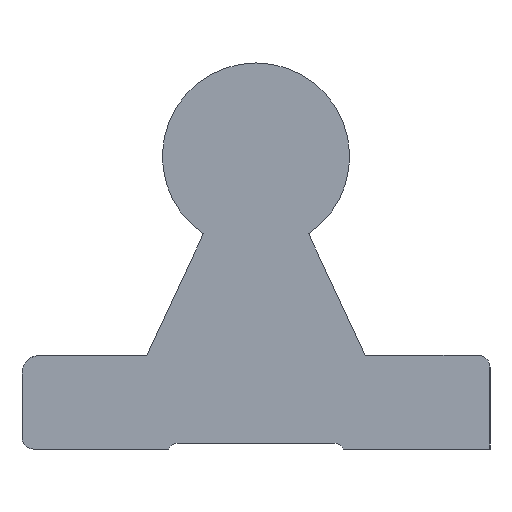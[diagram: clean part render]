
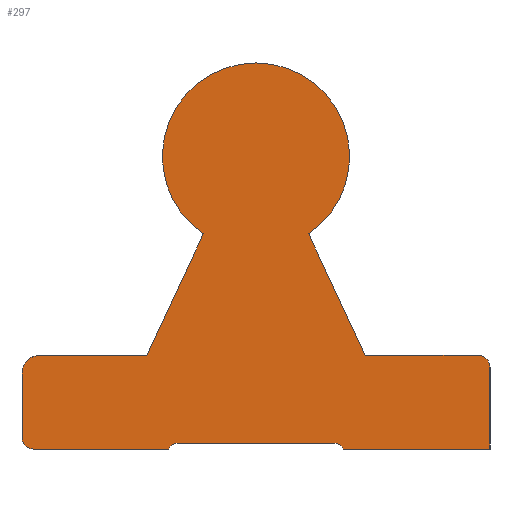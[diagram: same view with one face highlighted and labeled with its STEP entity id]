
A CAD part, left-side view. The second image highlights one B-rep face of the part: STEP entity #297.
In plain terms, the highlighted planar face has unit normal (-1, 0, 0).
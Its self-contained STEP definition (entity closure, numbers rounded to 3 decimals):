
#49=CARTESIAN_POINT('',(0.0,-6.634,0.5));
#50=VERTEX_POINT('',#49);
#51=CARTESIAN_POINT('',(0.0,-7.5,0.0));
#52=VERTEX_POINT('',#51);
#53=CARTESIAN_POINT('',(0.0,-6.634,-0.5));
#54=DIRECTION('',(-1.,0.0,0.0));
#55=DIRECTION('',(0.0,-0.866,0.5));
#56=AXIS2_PLACEMENT_3D('',#53,#54,#55);
#57=CIRCLE('',#56,1.);
#58=EDGE_CURVE('',#50,#52,#57,.F.);
#102=CARTESIAN_POINT('',(0.0,6.634,0.5));
#103=VERTEX_POINT('',#102);
#110=CARTESIAN_POINT('',(0.0,7.5,0.0));
#111=VERTEX_POINT('',#110);
#112=CARTESIAN_POINT('',(0.0,6.634,-0.5));
#113=DIRECTION('',(-1.,0.0,0.0));
#114=DIRECTION('',(0.0,0.866,0.5));
#115=AXIS2_PLACEMENT_3D('',#112,#113,#114);
#116=CIRCLE('',#115,1.);
#117=EDGE_CURVE('',#111,#103,#116,.F.);
#144=CARTESIAN_POINT('',(0.0,19.0,0.0));
#145=VERTEX_POINT('',#144);
#152=CARTESIAN_POINT('',(0.0,20.0,1.));
#153=VERTEX_POINT('',#152);
#154=CARTESIAN_POINT('',(0.0,19.0,1.0));
#155=DIRECTION('',(1.,0.0,0.0));
#156=DIRECTION('',(0.0,0.707,-0.707));
#157=AXIS2_PLACEMENT_3D('',#154,#155,#156);
#158=CIRCLE('',#157,1.);
#159=EDGE_CURVE('',#145,#153,#158,.T.);
#176=CARTESIAN_POINT('',(0.0,20.,6.5));
#177=VERTEX_POINT('',#176);
#178=CARTESIAN_POINT('',(0.0,20.0,1.));
#179=DIRECTION('',(0.0,0.0,1.0));
#180=VECTOR('',#179,5.5);
#181=LINE('',#178,#180);
#182=EDGE_CURVE('',#153,#177,#181,.T.);
#201=CARTESIAN_POINT('',(0.0,13.75,0.25));
#202=DIRECTION('',(1.0,0.0,0.0));
#203=DIRECTION('',(0.0,0.0,-1.0));
#204=AXIS2_PLACEMENT_3D('',#201,#202,#203);
#205=PLANE('',#204);
#206=ORIENTED_EDGE('',*,*,#159,.F.);
#207=CARTESIAN_POINT('',(0.0,7.5,0.0));
#208=DIRECTION('',(0.0,1.0,0.0));
#209=VECTOR('',#208,11.5);
#210=LINE('',#207,#209);
#211=EDGE_CURVE('',#111,#145,#210,.T.);
#212=ORIENTED_EDGE('',*,*,#211,.F.);
#213=ORIENTED_EDGE('',*,*,#117,.T.);
#214=CARTESIAN_POINT('',(0.0,-6.634,0.5));
#215=DIRECTION('',(0.0,1.0,0.0));
#216=VECTOR('',#215,13.268);
#217=LINE('',#214,#216);
#218=EDGE_CURVE('',#50,#103,#217,.T.);
#219=ORIENTED_EDGE('',*,*,#218,.F.);
#220=ORIENTED_EDGE('',*,*,#58,.T.);
#221=CARTESIAN_POINT('',(0.0,-20.0,0.0));
#222=VERTEX_POINT('',#221);
#223=CARTESIAN_POINT('',(0.0,-20.0,0.0));
#224=DIRECTION('',(0.0,1.0,0.0));
#225=VECTOR('',#224,12.5);
#226=LINE('',#223,#225);
#227=EDGE_CURVE('',#222,#52,#226,.T.);
#228=ORIENTED_EDGE('',*,*,#227,.F.);
#229=CARTESIAN_POINT('',(0.0,-20.,7.));
#230=VERTEX_POINT('',#229);
#231=CARTESIAN_POINT('',(0.0,-20.,7.));
#232=DIRECTION('',(0.0,0.0,-1.0));
#233=VECTOR('',#232,7.);
#234=LINE('',#231,#233);
#235=EDGE_CURVE('',#230,#222,#234,.T.);
#236=ORIENTED_EDGE('',*,*,#235,.F.);
#237=CARTESIAN_POINT('',(0.0,-19.,8.));
#238=VERTEX_POINT('',#237);
#239=CARTESIAN_POINT('',(0.0,-19.,7.));
#240=DIRECTION('',(1.,0.0,0.0));
#241=DIRECTION('',(0.0,-0.707,0.707));
#242=AXIS2_PLACEMENT_3D('',#239,#240,#241);
#243=CIRCLE('',#242,1.);
#244=EDGE_CURVE('',#238,#230,#243,.T.);
#245=ORIENTED_EDGE('',*,*,#244,.F.);
#246=CARTESIAN_POINT('',(0.0,-9.343,8.));
#247=VERTEX_POINT('',#246);
#248=CARTESIAN_POINT('',(0.0,-9.343,8.));
#249=DIRECTION('',(0.0,-1.0,0.0));
#250=VECTOR('',#249,9.657);
#251=LINE('',#248,#250);
#252=EDGE_CURVE('',#247,#238,#251,.T.);
#253=ORIENTED_EDGE('',*,*,#252,.F.);
#254=CARTESIAN_POINT('',(0.0,-4.5,18.386));
#255=VERTEX_POINT('',#254);
#256=CARTESIAN_POINT('',(0.0,-4.5,18.386));
#257=DIRECTION('',(0.0,-0.423,-0.906));
#258=VECTOR('',#257,11.459);
#259=LINE('',#256,#258);
#260=EDGE_CURVE('',#255,#247,#259,.T.);
#261=ORIENTED_EDGE('',*,*,#260,.F.);
#262=CARTESIAN_POINT('',(0.0,4.5,18.386));
#263=VERTEX_POINT('',#262);
#264=CARTESIAN_POINT('',(0.0,0.,25.));
#265=DIRECTION('',(1.0,0.0,0.0));
#266=DIRECTION('',(0.0,1.0,0.0));
#267=AXIS2_PLACEMENT_3D('',#264,#265,#266);
#268=CIRCLE('',#267,8.0);
#269=EDGE_CURVE('',#263,#255,#268,.T.);
#270=ORIENTED_EDGE('',*,*,#269,.F.);
#271=CARTESIAN_POINT('',(0.0,9.343,8.));
#272=VERTEX_POINT('',#271);
#273=CARTESIAN_POINT('',(0.0,9.343,8.));
#274=DIRECTION('',(0.0,-0.423,0.906));
#275=VECTOR('',#274,11.459);
#276=LINE('',#273,#275);
#277=EDGE_CURVE('',#272,#263,#276,.T.);
#278=ORIENTED_EDGE('',*,*,#277,.F.);
#279=CARTESIAN_POINT('',(0.0,18.5,8.));
#280=VERTEX_POINT('',#279);
#281=CARTESIAN_POINT('',(0.0,18.5,8.));
#282=DIRECTION('',(0.0,-1.0,0.0));
#283=VECTOR('',#282,9.157);
#284=LINE('',#281,#283);
#285=EDGE_CURVE('',#280,#272,#284,.T.);
#286=ORIENTED_EDGE('',*,*,#285,.F.);
#287=CARTESIAN_POINT('',(0.0,18.5,6.5));
#288=DIRECTION('',(1.0,0.0,0.0));
#289=DIRECTION('',(0.0,0.707,0.707));
#290=AXIS2_PLACEMENT_3D('',#287,#288,#289);
#291=CIRCLE('',#290,1.5);
#292=EDGE_CURVE('',#177,#280,#291,.T.);
#293=ORIENTED_EDGE('',*,*,#292,.F.);
#294=ORIENTED_EDGE('',*,*,#182,.F.);
#295=EDGE_LOOP('',(#206,#212,#213,#219,#220,#228,#236,#245,#253,#261,#270,#278,#286,#293,#294));
#296=FACE_OUTER_BOUND('',#295,.T.);
#297=ADVANCED_FACE('',(#296),#205,.F.);
